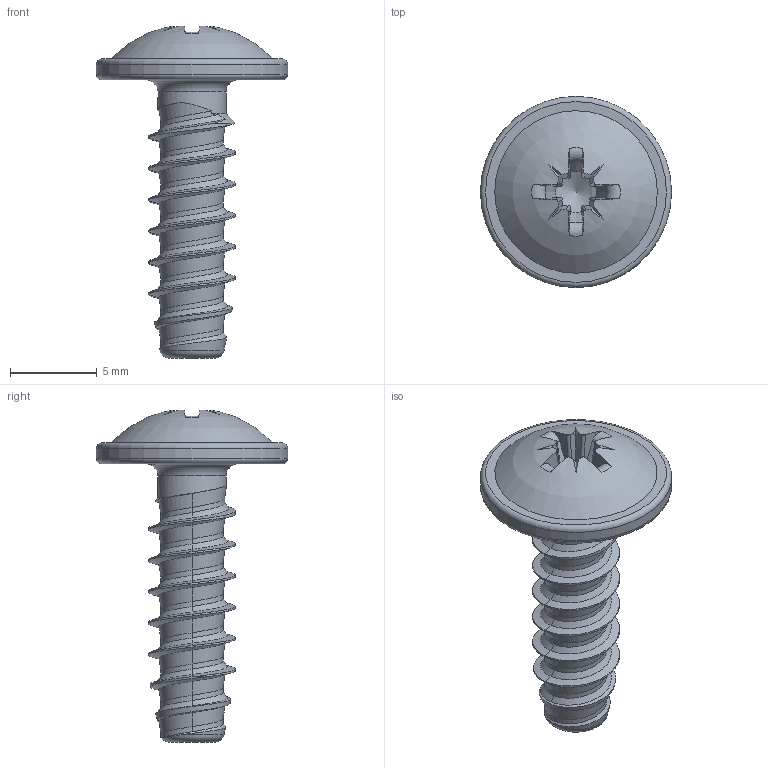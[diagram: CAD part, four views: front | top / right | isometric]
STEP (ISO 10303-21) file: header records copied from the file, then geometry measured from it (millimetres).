
FILE_DESCRIPTION(/* description */ (''),/* implementation_level */ '2;1');
FILE_NAME(/* name */ 'KN6031-STSplus-50x16-Z2.step',/* time_stamp */ '2017-10-09T16:57:54+02:00',/* author */ (''),/* organization */ (''),/* preprocessor_version */ 'ST-DEVELOPER v16',/* originating_system */ 'SIEMENS PLM Software NX 10.0',/* authorisation */ '');
FILE_SCHEMA (('AUTOMOTIVE_DESIGN { 1 0 10303 214 3 1 1 1 }'));
Length unit declared in the file: millimetre
Products named in the file (1): KN6031-STSplus-50x16-Z2
Bounding box: 11 x 11 x 19.09 mm (x, y, z)
Volume: 364.7 mm3; surface area: 522.7 mm2
Topology: 1 solids, 1 shells, 98 faces, 248 edges, 153 vertices
Faces by surface type: bspline 44, plane 27, cylinder 11, torus 8, cone 7, sphere 1
Full cylindrical faces by diameter (mm): 3.92 x1, 11 x1
Entity records: 5455 total; most frequent: CARTESIAN_POINT 3478, ORIENTED_EDGE 468, DIRECTION 278, EDGE_CURVE 234, VERTEX_POINT 148, B_SPLINE_CURVE_WITH_KNOTS 114, EDGE_LOOP 107, AXIS2_PLACEMENT_3D 103
